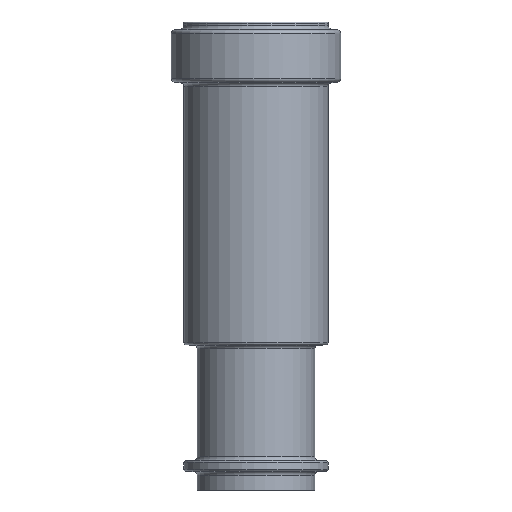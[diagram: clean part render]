
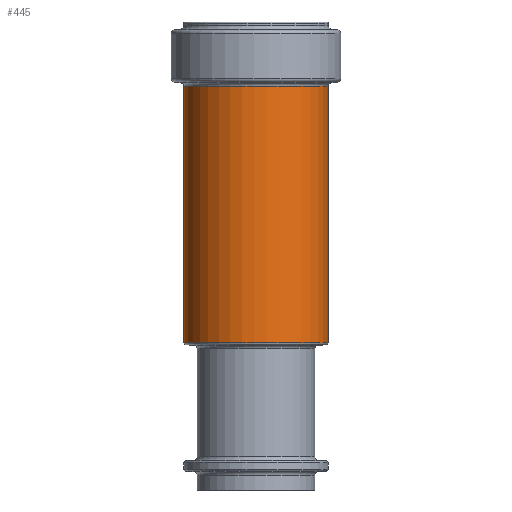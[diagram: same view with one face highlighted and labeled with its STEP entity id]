
A CAD part, front view. The second image highlights one B-rep face of the part: STEP entity #445.
In plain terms, the highlighted cylindrical face has radius 19.75 mm (diameter 39.5 mm), a full revolution.
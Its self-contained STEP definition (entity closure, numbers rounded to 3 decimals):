
#28=CYLINDRICAL_SURFACE('',#511,19.75);
#47=FACE_BOUND('',#136,.T.);
#85=FACE_OUTER_BOUND('',#135,.T.);
#135=EDGE_LOOP('',(#325));
#136=EDGE_LOOP('',(#326));
#191=CIRCLE('',#493,19.75);
#201=CIRCLE('',#512,19.75);
#229=VERTEX_POINT('',#728);
#239=VERTEX_POINT('',#757);
#267=EDGE_CURVE('',#229,#229,#191,.T.);
#277=EDGE_CURVE('',#239,#239,#201,.T.);
#325=ORIENTED_EDGE('',*,*,#277,.T.);
#326=ORIENTED_EDGE('',*,*,#267,.T.);
#445=ADVANCED_FACE('',(#85,#47),#28,.T.);
#493=AXIS2_PLACEMENT_3D('',#729,#579,#580);
#511=AXIS2_PLACEMENT_3D('',#756,#615,#616);
#512=AXIS2_PLACEMENT_3D('',#758,#617,#618);
#579=DIRECTION('center_axis',(0.,0.,-1.));
#580=DIRECTION('ref_axis',(-0.878,-0.479,0.));
#615=DIRECTION('center_axis',(0.,0.,1.));
#616=DIRECTION('ref_axis',(1.,0.,0.));
#617=DIRECTION('center_axis',(0.,0.,1.));
#618=DIRECTION('ref_axis',(-0.878,-0.479,0.));
#728=CARTESIAN_POINT('',(-17.332,-9.469,-17.654));
#729=CARTESIAN_POINT('Origin',(0.,0.,-17.654));
#756=CARTESIAN_POINT('Origin',(0.,0.,-64.165));
#757=CARTESIAN_POINT('',(17.332,9.469,-88.013));
#758=CARTESIAN_POINT('Origin',(0.,0.,-88.013));
